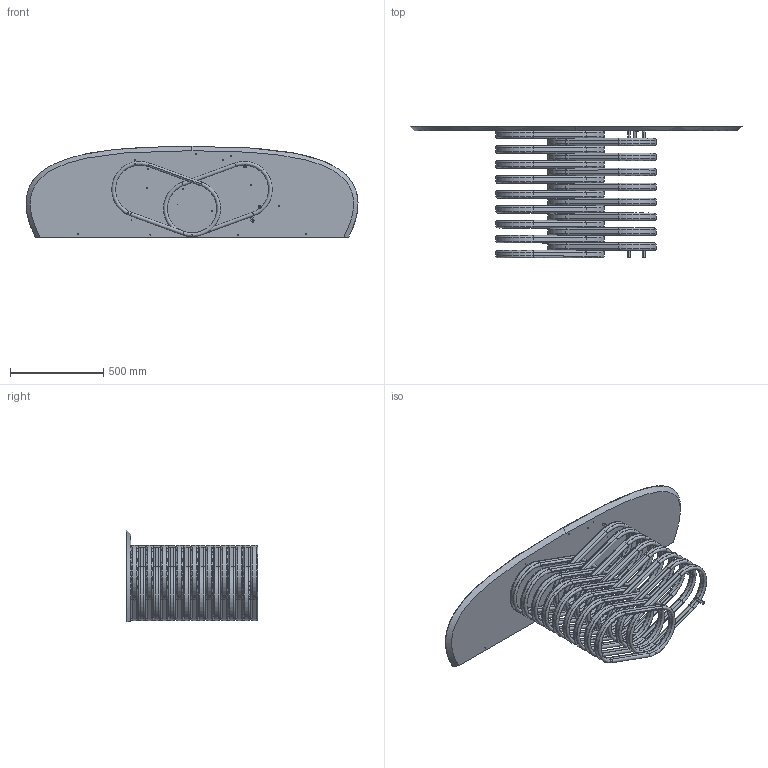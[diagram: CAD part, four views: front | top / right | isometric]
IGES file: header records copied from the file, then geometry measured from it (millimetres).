
Start section: SolidWorks IGES file using analytic representation for surfaces
Global section: file name: Y:\eforma\TECNICO\SOLIDWORKS\E-FORMA\3-CONSOLE\ROTOLO CONSOLE\02 parts\RO61M.IGS; native system: SolidWorks 2022; preprocessor: SolidWorks 2022; author: eforma.tech; date: 240806.120132; units: millimetre
Bounding box: 1775.94 x 705 x 488 mm (x, y, z)
Volume: 23754658.7 mm3; surface area: 6534810.9 mm2
Topology: 74 solids, 74 shells, 865 faces, 2104 edges, 1363 vertices
Faces by surface type: revolution 564, plane 297, bspline 4
